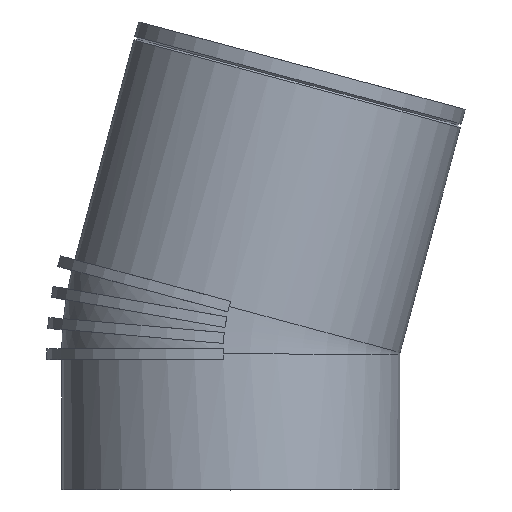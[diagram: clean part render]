
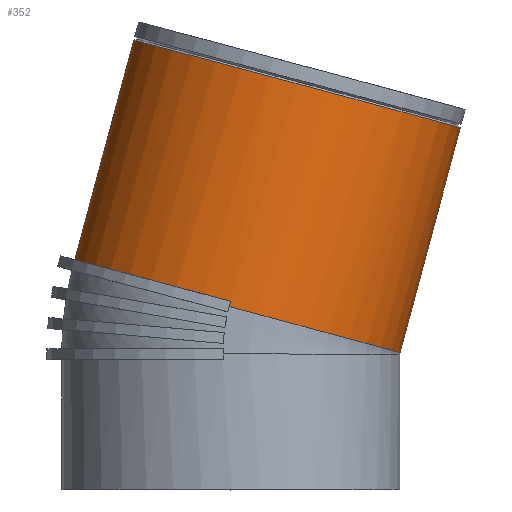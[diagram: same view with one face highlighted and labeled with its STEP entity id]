
A CAD part, top view. The second image highlights one B-rep face of the part: STEP entity #352.
In plain terms, the highlighted cylindrical face has radius 80 mm (diameter 160 mm), a full revolution.
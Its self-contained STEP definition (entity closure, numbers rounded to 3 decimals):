
#44=LINE($,#526,#48);
#45=LINE($,#530,#49);
#48=VECTOR($,#434,2.573);
#49=VECTOR($,#437,2.573);
#52=CYLINDRICAL_SURFACE($,#381,80.);
#63=FACE_BOUND($,#102,.T.);
#77=FACE_OUTER_BOUND($,#101,.T.);
#101=EDGE_LOOP($,(#238,#239,#240,#241));
#102=EDGE_LOOP($,(#242));
#135=CIRCLE($,#380,80.);
#136=CIRCLE($,#382,80.);
#137=CIRCLE($,#383,80.);
#156=VERTEX_POINT($,#521);
#157=VERTEX_POINT($,#524);
#158=VERTEX_POINT($,#525);
#159=VERTEX_POINT($,#527);
#160=VERTEX_POINT($,#529);
#191=EDGE_CURVE($,#156,#156,#135,.T.);
#192=EDGE_CURVE($,#157,#158,#44,.T.);
#193=EDGE_CURVE($,#159,#158,#136,.T.);
#194=EDGE_CURVE($,#159,#160,#45,.T.);
#195=EDGE_CURVE($,#160,#157,#137,.T.);
#238=ORIENTED_EDGE($,*,*,#192,.T.);
#239=ORIENTED_EDGE($,*,*,#193,.F.);
#240=ORIENTED_EDGE($,*,*,#194,.T.);
#241=ORIENTED_EDGE($,*,*,#195,.T.);
#242=ORIENTED_EDGE($,*,*,#191,.T.);
#352=ADVANCED_FACE($,(#77,#63),#52,.T.);
#380=AXIS2_PLACEMENT_3D($,#522,#430,#431);
#381=AXIS2_PLACEMENT_3D($,#523,#432,#433);
#382=AXIS2_PLACEMENT_3D($,#528,#435,#436);
#383=AXIS2_PLACEMENT_3D($,#531,#438,#439);
#430=DIRECTION('center_axis',(-0.259,-0.966,0.));
#431=DIRECTION('ref_axis',(0.966,-0.259,0.));
#432=DIRECTION('center_axis',(-0.259,-0.966,0.));
#433=DIRECTION('ref_axis',(0.966,-0.259,0.));
#434=DIRECTION($,(-0.259,-0.966,0.));
#435=DIRECTION('center_axis',(-0.259,-0.966,0.));
#436=DIRECTION('ref_axis',(0.966,-0.259,0.));
#437=DIRECTION($,(0.259,0.966,0.));
#438=DIRECTION('center_axis',(0.259,0.966,0.));
#439=DIRECTION('ref_axis',(0.966,-0.259,0.));
#521=CARTESIAN_POINT('',(108.611,171.245,0.));
#522=CARTESIAN_POINT('Origin',(31.337,191.951,0.));
#523=CARTESIAN_POINT('Origin',(18.237,143.063,0.));
#524=CARTESIAN_POINT('',(-0.056,88.991,79.916));
#525=CARTESIAN_POINT('',(-0.722,86.506,79.916));
#526=CARTESIAN_POINT($,(-0.722,86.506,79.916));
#527=CARTESIAN_POINT('',(-0.722,86.506,-79.916));
#528=CARTESIAN_POINT('Origin',(2.828,85.555,0.));
#529=CARTESIAN_POINT('',(-0.056,88.991,-79.916));
#530=CARTESIAN_POINT($,(-0.722,86.506,-79.916));
#531=CARTESIAN_POINT('Origin',(3.494,88.04,0.));
